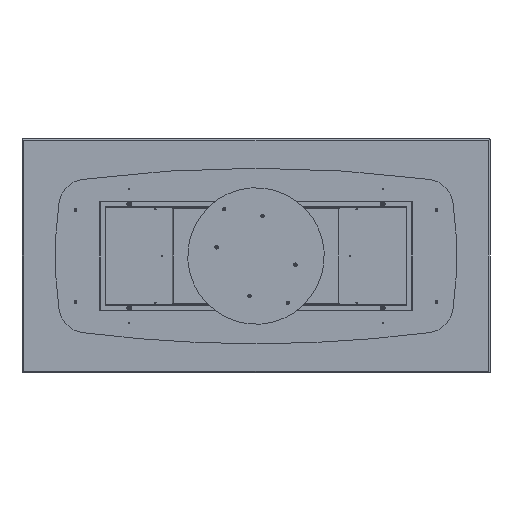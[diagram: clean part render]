
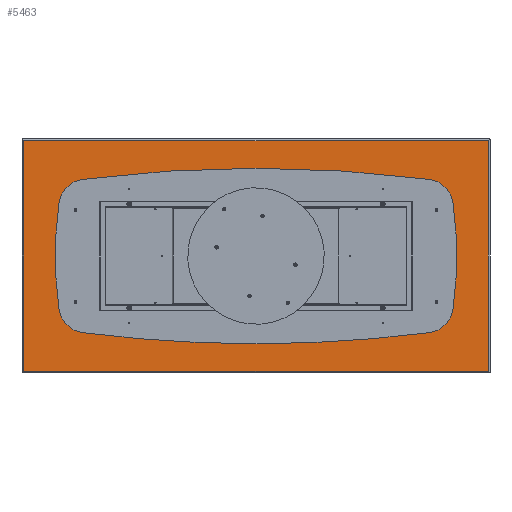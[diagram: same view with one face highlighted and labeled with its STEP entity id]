
A CAD part, front view. The second image highlights one B-rep face of the part: STEP entity #5463.
In plain terms, the highlighted planar face has unit normal (0, -1, 0).
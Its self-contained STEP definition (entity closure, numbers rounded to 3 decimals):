
#407 = CIRCLE ( 'NONE', #19517, 2.5 ) ;
#778 = ORIENTED_EDGE ( 'NONE', *, *, #15758, .T. ) ;
#993 = VERTEX_POINT ( 'NONE', #13347 ) ;
#1197 = DIRECTION ( 'NONE',  ( 0., 0., -1. ) ) ;
#1351 = LINE ( 'NONE', #11308, #22225 ) ;
#1390 = ORIENTED_EDGE ( 'NONE', *, *, #18490, .F. ) ;
#1607 = CARTESIAN_POINT ( 'NONE',  ( 0., 0., -590. ) ) ;
#1661 = VERTEX_POINT ( 'NONE', #19926 ) ;
#1733 = DIRECTION ( 'NONE',  ( 1., 0., 0. ) ) ;
#1841 = FACE_OUTER_BOUND ( 'NONE', #14049, .T. ) ;
#2363 = EDGE_CURVE ( 'NONE', #19323, #24488, #15799, .T. ) ;
#2741 = DIRECTION ( 'NONE',  ( 0., 0., -1. ) ) ;
#2897 = DIRECTION ( 'NONE',  ( 0., 0., -1. ) ) ;
#3318 = EDGE_LOOP ( 'NONE', ( #1390, #13311 ) ) ;
#3816 = ORIENTED_EDGE ( 'NONE', *, *, #23923, .F. ) ;
#4840 = ORIENTED_EDGE ( 'NONE', *, *, #2363, .F. ) ;
#5156 = CARTESIAN_POINT ( 'NONE',  ( 925., 0., 235. ) ) ;
#5191 = DIRECTION ( 'NONE',  ( 0., -1., 0. ) ) ;
#5230 = DIRECTION ( 'NONE',  ( 0., 0., 1. ) ) ;
#5463 = ADVANCED_FACE ( 'NONE', ( #11202, #13191, #7585, #20796, #1841 ), #13314, .F. ) ;
#5755 = ORIENTED_EDGE ( 'NONE', *, *, #13725, .F. ) ;
#5888 = CARTESIAN_POINT ( 'NONE',  ( 925., 0., 237.5 ) ) ;
#6262 = AXIS2_PLACEMENT_3D ( 'NONE', #11180, #6321, #21651 ) ;
#6298 = VECTOR ( 'NONE', #1733, 1000. ) ;
#6321 = DIRECTION ( 'NONE',  ( 0., -1., 0. ) ) ;
#6777 = CARTESIAN_POINT ( 'NONE',  ( 925., 0., -235. ) ) ;
#6802 = ORIENTED_EDGE ( 'NONE', *, *, #20721, .T. ) ;
#7039 = EDGE_CURVE ( 'NONE', #1661, #19010, #7439, .T. ) ;
#7381 = CARTESIAN_POINT ( 'NONE',  ( -1190., 0., 0. ) ) ;
#7439 = CIRCLE ( 'NONE', #6262, 2.5 ) ;
#7478 = CIRCLE ( 'NONE', #21015, 2.5 ) ;
#7585 = FACE_BOUND ( 'NONE', #3318, .T. ) ;
#7826 = EDGE_CURVE ( 'NONE', #993, #8047, #20296, .T. ) ;
#8047 = VERTEX_POINT ( 'NONE', #9881 ) ;
#8060 = CARTESIAN_POINT ( 'NONE',  ( -1190., 0., -590. ) ) ;
#8706 = ORIENTED_EDGE ( 'NONE', *, *, #7039, .F. ) ;
#9165 = VERTEX_POINT ( 'NONE', #20978 ) ;
#9227 = VERTEX_POINT ( 'NONE', #13510 ) ;
#9328 = CARTESIAN_POINT ( 'NONE',  ( 925., 0., -232.5 ) ) ;
#9360 = CARTESIAN_POINT ( 'NONE',  ( 925., 0., 235. ) ) ;
#9439 = DIRECTION ( 'NONE',  ( 0., 1., 0. ) ) ;
#9881 = CARTESIAN_POINT ( 'NONE',  ( -1190., 0., 590. ) ) ;
#10323 = ORIENTED_EDGE ( 'NONE', *, *, #22709, .F. ) ;
#10387 = DIRECTION ( 'NONE',  ( 0., 0., -1. ) ) ;
#11180 = CARTESIAN_POINT ( 'NONE',  ( 925., 0., -235. ) ) ;
#11202 = FACE_BOUND ( 'NONE', #22166, .T. ) ;
#11308 = CARTESIAN_POINT ( 'NONE',  ( 1190., 0., 0. ) ) ;
#11325 = CARTESIAN_POINT ( 'NONE',  ( 0., 0., 0. ) ) ;
#11417 = CARTESIAN_POINT ( 'NONE',  ( -925., 0., -232.5 ) ) ;
#12121 = DIRECTION ( 'NONE',  ( 0., 0., -1. ) ) ;
#12247 = DIRECTION ( 'NONE',  ( 0., -1., 0. ) ) ;
#12781 = CARTESIAN_POINT ( 'NONE',  ( -925., 0., -235. ) ) ;
#13191 = FACE_BOUND ( 'NONE', #16437, .T. ) ;
#13311 = ORIENTED_EDGE ( 'NONE', *, *, #15694, .F. ) ;
#13314 = PLANE ( 'NONE',  #19757 ) ;
#13335 = CARTESIAN_POINT ( 'NONE',  ( -925., 0., 232.5 ) ) ;
#13347 = CARTESIAN_POINT ( 'NONE',  ( 1190., 0., 590. ) ) ;
#13510 = CARTESIAN_POINT ( 'NONE',  ( 925., 0., 232.5 ) ) ;
#13725 = EDGE_CURVE ( 'NONE', #9227, #17283, #22998, .T. ) ;
#14049 = EDGE_LOOP ( 'NONE', ( #6802, #778, #15093, #18899 ) ) ;
#14075 = EDGE_CURVE ( 'NONE', #21107, #993, #1351, .T. ) ;
#14096 = DIRECTION ( 'NONE',  ( 0., -1., 0. ) ) ;
#14632 = DIRECTION ( 'NONE',  ( 0., 0., -1. ) ) ;
#14648 = AXIS2_PLACEMENT_3D ( 'NONE', #5156, #16726, #14632 ) ;
#14878 = DIRECTION ( 'NONE',  ( 0., -1., 0. ) ) ;
#15069 = CARTESIAN_POINT ( 'NONE',  ( 1190., 0., -590. ) ) ;
#15093 = ORIENTED_EDGE ( 'NONE', *, *, #14075, .T. ) ;
#15412 = EDGE_CURVE ( 'NONE', #17283, #9227, #23838, .T. ) ;
#15694 = EDGE_CURVE ( 'NONE', #9165, #19557, #7478, .T. ) ;
#15758 = EDGE_CURVE ( 'NONE', #21734, #21107, #22451, .T. ) ;
#15799 = CIRCLE ( 'NONE', #23364, 2.5 ) ;
#16249 = DIRECTION ( 'NONE',  ( 0., -1., 0. ) ) ;
#16437 = EDGE_LOOP ( 'NONE', ( #4840, #10323 ) ) ;
#16726 = DIRECTION ( 'NONE',  ( 0., -1., 0. ) ) ;
#17063 = DIRECTION ( 'NONE',  ( 0., 0., 1. ) ) ;
#17283 = VERTEX_POINT ( 'NONE', #5888 ) ;
#17958 = AXIS2_PLACEMENT_3D ( 'NONE', #23867, #16249, #10387 ) ;
#17987 = DIRECTION ( 'NONE',  ( 0., -1., 0. ) ) ;
#18490 = EDGE_CURVE ( 'NONE', #19557, #9165, #23956, .T. ) ;
#18682 = VECTOR ( 'NONE', #24186, 1000. ) ;
#18899 = ORIENTED_EDGE ( 'NONE', *, *, #7826, .T. ) ;
#18996 = ORIENTED_EDGE ( 'NONE', *, *, #15412, .F. ) ;
#19010 = VERTEX_POINT ( 'NONE', #9328 ) ;
#19082 = AXIS2_PLACEMENT_3D ( 'NONE', #6777, #12247, #12121 ) ;
#19088 = LINE ( 'NONE', #7381, #20420 ) ;
#19323 = VERTEX_POINT ( 'NONE', #21929 ) ;
#19517 = AXIS2_PLACEMENT_3D ( 'NONE', #21933, #14096, #2741 ) ;
#19557 = VERTEX_POINT ( 'NONE', #13335 ) ;
#19757 = AXIS2_PLACEMENT_3D ( 'NONE', #11325, #9439, #17063 ) ;
#19926 = CARTESIAN_POINT ( 'NONE',  ( 925., 0., -237.5 ) ) ;
#19966 = CARTESIAN_POINT ( 'NONE',  ( -925., 0., 235. ) ) ;
#20279 = CIRCLE ( 'NONE', #19082, 2.5 ) ;
#20296 = LINE ( 'NONE', #20542, #18682 ) ;
#20420 = VECTOR ( 'NONE', #22723, 1000. ) ;
#20542 = CARTESIAN_POINT ( 'NONE',  ( 0., 0., 590. ) ) ;
#20653 = AXIS2_PLACEMENT_3D ( 'NONE', #9360, #14878, #20838 ) ;
#20721 = EDGE_CURVE ( 'NONE', #8047, #21734, #19088, .T. ) ;
#20796 = FACE_BOUND ( 'NONE', #24498, .T. ) ;
#20838 = DIRECTION ( 'NONE',  ( 0., 0., -1. ) ) ;
#20978 = CARTESIAN_POINT ( 'NONE',  ( -925., 0., 237.5 ) ) ;
#21015 = AXIS2_PLACEMENT_3D ( 'NONE', #19966, #17987, #2897 ) ;
#21107 = VERTEX_POINT ( 'NONE', #15069 ) ;
#21651 = DIRECTION ( 'NONE',  ( 0., 0., -1. ) ) ;
#21734 = VERTEX_POINT ( 'NONE', #8060 ) ;
#21929 = CARTESIAN_POINT ( 'NONE',  ( -925., 0., -237.5 ) ) ;
#21933 = CARTESIAN_POINT ( 'NONE',  ( -925., 0., -235. ) ) ;
#22166 = EDGE_LOOP ( 'NONE', ( #8706, #3816 ) ) ;
#22225 = VECTOR ( 'NONE', #5230, 1000. ) ;
#22451 = LINE ( 'NONE', #1607, #6298 ) ;
#22709 = EDGE_CURVE ( 'NONE', #24488, #19323, #407, .T. ) ;
#22723 = DIRECTION ( 'NONE',  ( 0., 0., -1. ) ) ;
#22998 = CIRCLE ( 'NONE', #14648, 2.5 ) ;
#23364 = AXIS2_PLACEMENT_3D ( 'NONE', #12781, #5191, #1197 ) ;
#23838 = CIRCLE ( 'NONE', #20653, 2.5 ) ;
#23867 = CARTESIAN_POINT ( 'NONE',  ( -925., 0., 235. ) ) ;
#23923 = EDGE_CURVE ( 'NONE', #19010, #1661, #20279, .T. ) ;
#23956 = CIRCLE ( 'NONE', #17958, 2.5 ) ;
#24186 = DIRECTION ( 'NONE',  ( -1., 0., 0. ) ) ;
#24488 = VERTEX_POINT ( 'NONE', #11417 ) ;
#24498 = EDGE_LOOP ( 'NONE', ( #5755, #18996 ) ) ;
